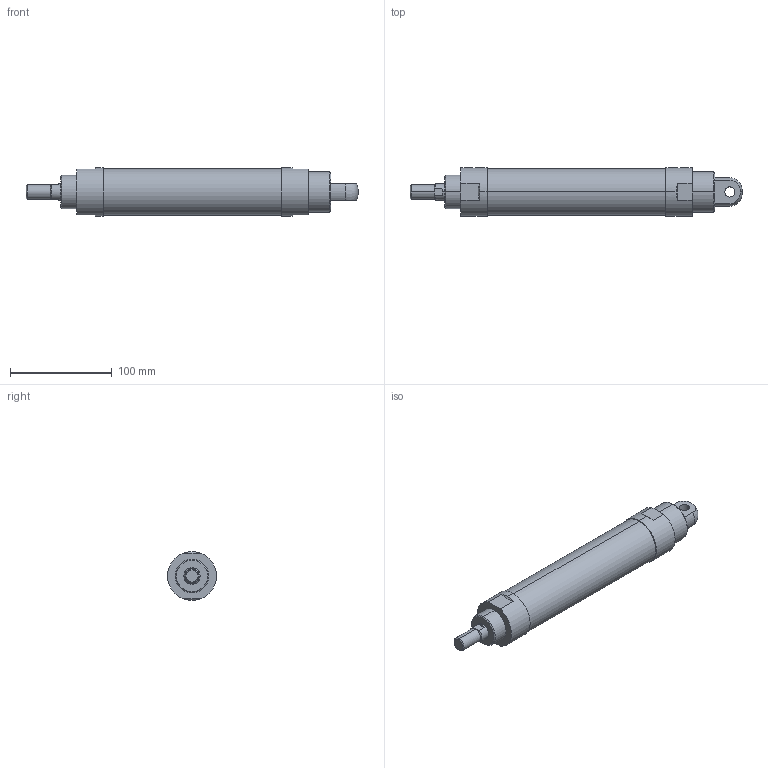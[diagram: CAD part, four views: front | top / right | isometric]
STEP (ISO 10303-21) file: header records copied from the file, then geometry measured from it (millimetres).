
FILE_DESCRIPTION (( 'STEP AP203' ), '1' );
FILE_NAME ('J#2-40-125-C.STEP', '2016-03-08T07:59:43', ( '' ), ( '' ), 'SwSTEP 2.0', 'SolidWorks 2014', '' );
FILE_SCHEMA (( 'CONFIG_CONTROL_DESIGN' ));
Length unit declared in the file: millimetre
Products named in the file (1): J#2-40-125-C
Bounding box: 327 x 48 x 48 mm (x, y, z)
Volume: 438526.2 mm3; surface area: 46309.3 mm2
Topology: 1 solids, 1 shells, 59 faces, 138 edges, 85 vertices
Faces by surface type: cylinder 22, plane 20, cone 15, torus 2
Entity records: 1988 total; most frequent: CARTESIAN_POINT 566, DIRECTION 293, ORIENTED_EDGE 268, EDGE_CURVE 134, AXIS2_PLACEMENT_3D 118, VERTEX_POINT 85, EDGE_LOOP 69, FACE_OUTER_BOUND 59
